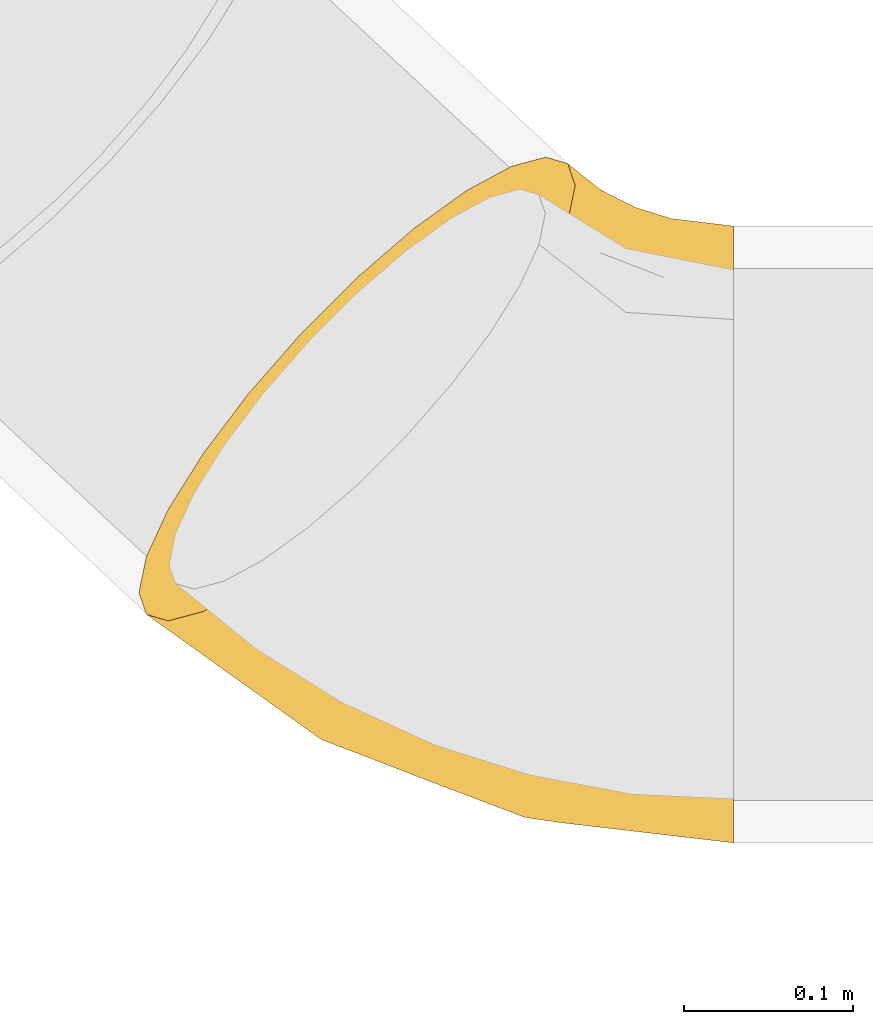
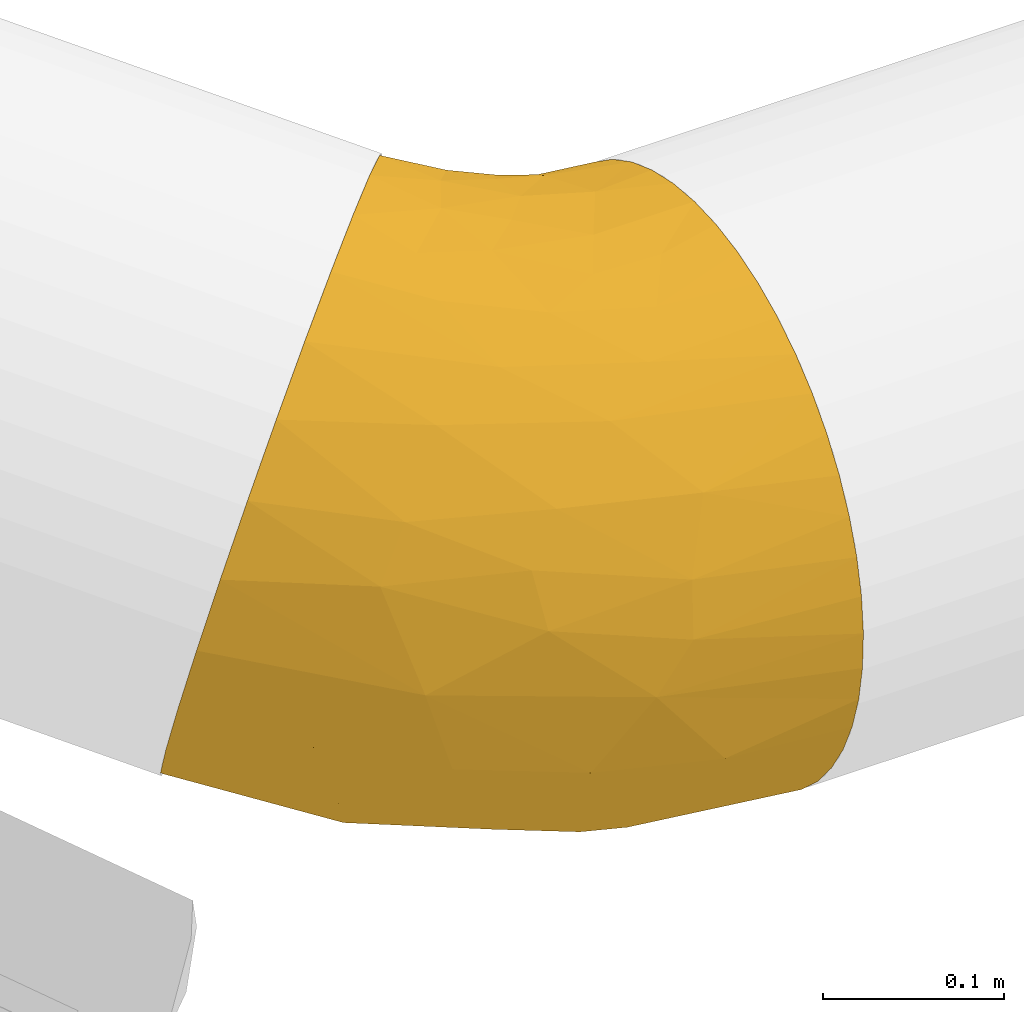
# One storey, part 5 of 12: 1 covering.
"""IFC2X3 building model written with IfcOpenShell, lengths in millimetres."""

from ifc_helpers import new_model, entity, si_unit, converted_unit, derived_unit, direction, frame, origin_with_axes, place, context, subcontext, project, spatial, open_shell, surface_model, source, transform, mapped, element, save


model = new_model("IFC2X3")

# Units and contexts
model_context = context("Model", 3, precision=0.01, world=frame((0.0, 4.29681676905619e-09, 0.0)), true_north=direction((4.01073788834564e-13, 1.0)))
plan_context = context("Plan", 3, precision=0.01, world=frame((0.0, 4.29681676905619e-09, 0.0)), true_north=direction((4.01073788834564e-13, 1.0)))
body_context = subcontext(model_context, "Body", "Model", "MODEL_VIEW")
ifc_project = project(units=[converted_unit("PLANEANGLEUNIT", "DEGREE", entity("IfcPositiveLengthMeasure", 0.0174532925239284), si_unit("PLANEANGLEUNIT", "RADIAN"), dimensions=[0, 0, 0, 0, 0, 0, 0]), si_unit("AREAUNIT", "SQUARE_METRE"), si_unit("LENGTHUNIT", "METRE", prefix="MILLI"), si_unit("MASSUNIT", "GRAM", prefix="KILO"), si_unit("POWERUNIT", "WATT"), si_unit("PRESSUREUNIT", "PASCAL", prefix="KILO"), si_unit("FORCEUNIT", "NEWTON", prefix="KILO"), si_unit("ELECTRICVOLTAGEUNIT", "VOLT"), si_unit("ELECTRICCURRENTUNIT", "AMPERE"), si_unit("THERMODYNAMICTEMPERATUREUNIT", "DEGREE_CELSIUS"), si_unit("TIMEUNIT", "SECOND"), si_unit("VOLUMEUNIT", "CUBIC_METRE"), derived_unit("LINEARVELOCITYUNIT", [(si_unit("LENGTHUNIT", "METRE"), 1), (si_unit("TIMEUNIT", "SECOND"), -1)]), derived_unit("VOLUMETRICFLOWRATEUNIT", [(si_unit("VOLUMEUNIT", "CUBIC_METRE"), 1), (si_unit("TIMEUNIT", "SECOND"), -1)]), derived_unit("THERMALTRANSMITTANCEUNIT", [(si_unit("POWERUNIT", "WATT"), 1), (si_unit("THERMODYNAMICTEMPERATUREUNIT", "KELVIN"), -1), (si_unit("AREAUNIT", "SQUARE_METRE"), -1)]), derived_unit("SOUNDPRESSUREUNIT", [(si_unit("PRESSUREUNIT", "PASCAL"), 1)])], contexts=[model_context, plan_context])

# Site, building, storey
site_placement = place(None, frame((0.0, -4.29681676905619e-09, 0.0), z_axis=(0.0, 0.0, 1.0), x_axis=(1.0, 0.0, 0.0)))
site = spatial("IfcSite", under=ifc_project, at=site_placement, CompositionType="ELEMENT")
building_placement = place(site_placement, frame((0.0, 4.29681676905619e-09, 0.0), z_axis=(0.0, 0.0, 1.0), x_axis=(1.0, 0.0, 0.0)))
building = spatial("IfcBuilding", under=site, at=building_placement, Name="mc-building", CompositionType="ELEMENT")
storey_placement = place(building_placement, frame((0.0, 0.0, 204000.0), z_axis=(0.0, 0.0, 1.0), x_axis=(1.0, 0.0, 0.0)))
storey = spatial("IfcBuildingStorey", under=building, at=storey_placement, Name="Nivå D", CompositionType="ELEMENT", Elevation=204000.0)

# Covering
shared_shape = source(origin_with_axes(), body_context, "Body", "SurfaceModel", [
    surface_model("IfcShellBasedSurfaceModel", [(42.87968, 141.64304, 168.60946), (58.86437, 125.65835, 176.28254), (75.42051, 109.10222, 180.93928), (211.48626, -26.96353, 69.83624), (194.64252, -10.11979, 111.09658), (204.02052, -19.4978, 91.24706), (216.91194, -32.38921, 47.23048), (220.20475, -35.68202, 23.81657), (92.26137, 92.26137, 182.5), (109.10569, 75.41703, 180.93863), (-130.47727, 176.28146, 47.23448), (-130.47727, 129.04698, 129.04698), (-130.47727, 158.04964, 91.25), (-130.47727, 47.23448, 176.28146), (-130.47727, 91.25, 158.04964), (23.25868, -158.15061, 0.0), (95.383, -128.27575, 0.0), (-3.17124, -157.50585, 53.9118), (-52.65112, -176.37495, 0.0), (-130.47727, -176.28146, 47.23448), (-130.47727, -182.5, 0.0), (104.29737, -32.94358, 149.44977), (183.51267, 1.01006, 129.04515), (170.82142, 13.70131, 144.78565), (-9.93199, 23.97795, 182.5), (-69.02382, 6.05264, 182.5), (-24.56403, -20.54224, 178.73867), (114.35694, -68.16287, 117.42434), (116.66798, -106.5569, 56.1035), (49.40386, -119.26985, 96.25786), (125.6618, 58.86092, 176.28123), (51.14654, 16.98607, 179.30532), (-130.47727, -158.04964, 91.25), (-45.73677, -138.77969, 108.66266), (-130.47727, -129.04698, 129.04698), (-46.50264, -64.55271, 166.94295), (42.68669, -23.91785, 170.30503), (31.4936, -76.03327, 146.9283), (-130.47727, -47.23448, 176.28146), (-130.47727, 0.0, 182.5), (125.67947, -84.7872, 88.12772), (161.94589, -87.48596, 0.0), (-44.62794, -112.3015, 136.76218), (156.78594, 27.73678, 158.04875), (141.64639, 42.87634, 168.6075), (29.82213, -104.48164, 123.82414), (221.30835, -36.78562, 0.0), (-130.47727, -91.25, 158.04964), (44.52735, 53.08707, 182.5), (-51.76098, 55.50714, 177.15846), (-90.04335, 34.13658, 179.80614), (-11.0109, 137.91955, 151.74498), (13.70422, 170.81852, 144.78881), (1.01266, 183.51006, 129.04883), (-101.80563, 174.45483, 62.23653), (-110.02967, 181.81198, 28.55947), (-86.73142, 80.19168, 165.85298), (-48.17835, 87.92988, 167.05556), (-48.73159, 117.64918, 151.74499), (-80.05974, 188.08981, 38.2721), (-53.07063, 195.73157, 58.66376), (-52.30164, 205.4942, 27.25871), (5.37573, 60.83692, 180.52038), (-93.37442, 114.50308, 144.78699), (-130.47727, 182.5, 0.0), (-32.38829, 216.91102, 47.23535), (-35.68157, 220.20429, 23.82149), (-93.55992, 148.8387, 111.09895), (-72.56898, 175.19728, 80.71907), (-41.7964, 160.90497, 120.33241), (-66.14065, 140.24568, 129.31445), (-96.18375, 187.01482, 0.0), (-2.61605, 92.82385, 172.81601), (36.54973, 91.02124, 178.99416), (-26.96214, 211.48487, 69.84097), (27.73994, 156.78278, 158.05133), (-46.73971, 182.01861, 91.59439), (-10.11755, 194.64028, 111.1007), (-19.49598, 204.01871, 91.25153), (-64.22727, 200.25164, 0.0), (-36.78562, 221.30835, 0.0), (-66.00878, 160.7992, 106.96805), (-75.78144, 177.81349, -72.89014), (-101.61909, 182.21751, -34.97254), (-78.84671, 190.35281, -29.60433), (-39.17356, 179.664, -101.38891), (-10.11979, 194.64252, -111.09658), (1.01006, 183.51267, -129.04515), (-86.25336, 115.95256, -144.78699), (-66.32564, 140.74819, -128.77897), (-50.23367, 123.06705, -147.86509), (-130.47727, 158.04964, -91.25), (-99.50447, 147.6287, -111.09895), (-130.47727, 129.04698, -129.04698), (-33.37838, 146.27752, -137.20918), (-68.00209, 164.17212, -101.3889), (-85.81435, 79.53552, -166.22445), (-51.06764, 53.22151, -177.73237), (-90.7131, 33.60783, -179.88014), (-98.72692, 172.09258, -69.83972), (-130.47727, 0.0, -182.5), (-130.47727, 47.23448, -176.28146), (-130.47727, 91.25, -158.04964), (38.60193, 88.20704, -179.65175), (58.86092, 125.6618, -176.28123), (75.41703, 109.10569, -180.93863), (-40.8217, 98.55271, -163.6786), (9.0736, 99.97949, -172.8144), (4.38699, 62.68671, -180.19643), (-9.93199, 23.97795, -182.5), (-69.02382, 6.05264, -182.5), (-59.55684, 191.76617, -58.65895), (-32.38921, 216.91194, -47.23048), (-26.96353, 211.48626, -69.83624), (42.87634, 141.64639, -168.6075), (-19.4978, 204.02052, -91.24706), (-11.4351, 125.95231, -157.8503), (13.70131, 170.82142, -144.78565), (27.73678, 156.78594, -158.04875), (-52.70337, 204.71352, -29.81211), (-35.68202, 220.20475, -23.81657), (-130.47727, 176.28146, -47.23448), (44.52735, 53.08707, -182.5), (92.26137, 92.26137, -182.5), (-24.56493, -20.54007, -178.73914), (125.65835, 58.86437, -176.28254), (51.1506, 16.99078, -179.30568), (109.10222, 75.42051, -180.93928), (96.68999, -79.49785, -116.7992), (53.55373, -129.28931, -76.05893), (-26.82777, -135.26085, -108.10373), (183.51006, 1.01266, -129.04883), (104.2955, -32.93976, -149.45272), (-49.89033, -95.82183, -150.20877), (-46.50084, -64.54927, -166.94426), (31.49304, -76.02905, -146.93133), (141.64304, 42.87968, -168.60946), (42.684, -23.914, -170.30681), (121.42287, -87.20795, -88.54884), (194.64028, -10.11755, -111.1007), (204.01871, -19.49598, -91.25153), (-130.47727, -47.23448, -176.28146), (-130.47727, -176.28146, -47.23448), (211.48487, -26.96214, -69.84097), (-31.04076, -163.12467, -57.04574), (-130.47727, -158.04964, -91.25), (58.43204, -141.06746, -37.31783), (-130.47727, -91.25, -158.04964), (216.91102, -32.38829, -47.23535), (136.97918, -93.77843, -56.6023), (-130.47727, -129.04698, -129.04698), (156.78278, 27.73994, -158.05133), (170.81852, 13.70422, -144.78881), (220.20429, -35.68157, -23.82149)], [open_shell([[[0, 1, 2]], [[3, 4, 5]], [[3, 6, 7]], [[8, 9, 2]], [[10, 11, 12]], [[11, 13, 14]], [[15, 16, 17]], [[18, 19, 20]], [[21, 22, 23]], [[24, 25, 26]], [[4, 22, 27]], [[28, 29, 17]], [[17, 16, 28]], [[15, 17, 18]], [[30, 9, 31]], [[32, 33, 34]], [[26, 35, 36]], [[35, 37, 36]], [[35, 26, 38]], [[39, 26, 25]], [[40, 29, 28]], [[26, 31, 24]], [[41, 28, 16]], [[39, 38, 26]], [[19, 17, 32]], [[31, 26, 36]], [[33, 42, 34]], [[21, 43, 44]], [[28, 6, 3]], [[45, 27, 37]], [[27, 40, 4]], [[29, 40, 27]], [[42, 45, 37]], [[21, 27, 22]], [[27, 45, 29]], [[6, 28, 7]], [[42, 37, 35]], [[40, 3, 5]], [[33, 45, 42]], [[41, 46, 7]], [[42, 47, 34]], [[45, 33, 29]], [[9, 48, 31]], [[8, 48, 9]], [[35, 47, 42]], [[38, 47, 35]], [[30, 31, 36]], [[44, 36, 21]], [[17, 19, 18]], [[36, 44, 30]], [[31, 48, 24]], [[37, 21, 36]], [[23, 43, 21]], [[17, 29, 33]], [[17, 33, 32]], [[41, 7, 28]], [[3, 40, 28]], [[27, 21, 37]], [[4, 40, 5]], [[25, 24, 49]], [[50, 39, 25]], [[51, 52, 53]], [[54, 55, 10]], [[56, 57, 58]], [[59, 60, 61]], [[24, 48, 62]], [[24, 62, 49]], [[56, 63, 14]], [[14, 63, 11]], [[64, 10, 55]], [[50, 25, 49]], [[61, 65, 66]], [[67, 54, 12]], [[59, 68, 60]], [[58, 69, 70]], [[67, 11, 63]], [[54, 68, 59]], [[63, 56, 58]], [[55, 59, 71]], [[72, 73, 0]], [[63, 58, 70]], [[65, 60, 74]], [[52, 51, 75]], [[51, 72, 0]], [[76, 77, 78]], [[51, 0, 75]], [[72, 62, 73]], [[12, 54, 10]], [[72, 51, 58]], [[2, 48, 8]], [[73, 2, 1]], [[53, 69, 51]], [[56, 13, 50]], [[58, 51, 69]], [[68, 76, 60]], [[60, 65, 61]], [[12, 11, 67]], [[79, 61, 80]], [[67, 70, 81]], [[68, 54, 67]], [[76, 68, 81]], [[59, 79, 71]], [[76, 74, 60]], [[56, 49, 57]], [[69, 53, 77]], [[73, 48, 2]], [[13, 56, 14]], [[49, 62, 72]], [[73, 1, 0]], [[48, 73, 62]], [[59, 55, 54]], [[64, 55, 71]], [[77, 76, 69]], [[74, 76, 78]], [[49, 72, 57]], [[72, 58, 57]], [[80, 61, 66]], [[59, 61, 79]], [[56, 50, 49]], [[39, 50, 13]], [[81, 70, 69]], [[63, 70, 67]], [[76, 81, 69]], [[67, 81, 68]], [[82, 83, 84]], [[83, 64, 71]], [[85, 86, 87]], [[88, 89, 90]], [[91, 92, 93]], [[71, 79, 84]], [[88, 93, 92]], [[94, 89, 95]], [[96, 97, 98]], [[92, 99, 95]], [[100, 101, 98]], [[96, 101, 102]], [[103, 104, 105]], [[96, 106, 97]], [[85, 95, 82]], [[107, 108, 106]], [[108, 97, 106]], [[84, 83, 71]], [[109, 110, 97]], [[99, 92, 91]], [[111, 112, 113]], [[88, 96, 102]], [[114, 104, 107]], [[86, 85, 115]], [[85, 111, 113]], [[116, 117, 118]], [[85, 113, 115]], [[112, 111, 119]], [[92, 95, 89]], [[110, 98, 97]], [[119, 80, 120]], [[119, 79, 80]], [[87, 94, 85]], [[121, 99, 91]], [[95, 85, 94]], [[106, 116, 107]], [[103, 122, 108]], [[102, 93, 88]], [[122, 103, 123]], [[82, 95, 99]], [[106, 96, 88]], [[106, 90, 116]], [[109, 108, 122]], [[116, 114, 107]], [[103, 108, 107]], [[94, 87, 117]], [[104, 103, 107]], [[97, 108, 109]], [[103, 105, 123]], [[117, 116, 94]], [[114, 116, 118]], [[119, 84, 79]], [[84, 111, 82]], [[99, 121, 83]], [[64, 83, 121]], [[112, 119, 120]], [[84, 119, 111]], [[100, 98, 110]], [[96, 98, 101]], [[82, 99, 83]], [[85, 82, 111]], [[90, 89, 94]], [[92, 89, 88]], [[116, 90, 94]], [[88, 90, 106]], [[124, 110, 109]], [[125, 126, 127]], [[128, 129, 130]], [[124, 100, 110]], [[131, 128, 132]], [[133, 134, 135]], [[125, 136, 137]], [[109, 122, 126]], [[138, 139, 140]], [[141, 124, 134]], [[18, 20, 142]], [[130, 133, 135]], [[143, 138, 140]], [[130, 144, 145]], [[16, 15, 146]], [[130, 135, 128]], [[147, 134, 133]], [[144, 18, 142]], [[143, 148, 149]], [[130, 145, 150]], [[139, 138, 128]], [[109, 126, 124]], [[127, 126, 122]], [[124, 126, 137]], [[125, 137, 126]], [[145, 144, 142]], [[144, 146, 15]], [[132, 136, 151]], [[152, 132, 151]], [[135, 134, 137]], [[139, 128, 131]], [[15, 18, 144]], [[149, 146, 129]], [[132, 137, 136]], [[147, 141, 134]], [[132, 128, 135]], [[138, 143, 149]], [[129, 138, 149]], [[132, 152, 131]], [[138, 129, 128]], [[41, 149, 153]], [[134, 124, 137]], [[46, 41, 153]], [[149, 148, 153]], [[146, 149, 16]], [[16, 149, 41]], [[100, 124, 141]], [[129, 146, 144]], [[137, 132, 135]], [[127, 122, 123]], [[130, 150, 133]], [[129, 144, 130]], [[150, 147, 133]], [[65, 74, 78]], [[66, 65, 78]], [[52, 75, 0]], [[43, 9, 30]], [[43, 30, 44]], [[112, 115, 113]], [[117, 114, 118]], [[121, 10, 64]], [[120, 80, 66]], [[53, 78, 77]], [[114, 117, 105]], [[114, 105, 104]], [[105, 117, 123]], [[43, 23, 9]], [[46, 3, 7]], [[127, 123, 125]], [[140, 139, 131]], [[93, 121, 91]], [[10, 121, 102]], [[102, 121, 93]], [[102, 141, 10]], [[11, 10, 147]], [[11, 147, 13]], [[13, 20, 39]], [[101, 100, 102]], [[147, 10, 141]], [[13, 147, 150]], [[150, 145, 142]], [[142, 13, 150]], [[142, 20, 13]], [[38, 34, 47]], [[38, 39, 34]], [[32, 20, 19]], [[20, 32, 34]], [[20, 34, 39]], [[141, 102, 100]], [[117, 66, 125]], [[53, 136, 78]], [[53, 52, 140]], [[78, 136, 66]], [[140, 52, 0]], [[66, 115, 112]], [[115, 87, 86]], [[117, 87, 115]], [[120, 66, 112]], [[66, 117, 115]], [[125, 123, 117]], [[0, 2, 140]], [[4, 2, 9]], [[4, 9, 23]], [[140, 2, 4]], [[4, 3, 140]], [[23, 22, 4]], [[152, 140, 131]], [[151, 140, 152]], [[66, 136, 125]], [[151, 136, 140]], [[153, 140, 46]], [[143, 153, 148]], [[140, 153, 143]], [[136, 53, 140]], [[3, 46, 140]]])]),
])
covering_placement = place(storey_placement, frame((598545.62797, 404046.5125, 2668.5), z_axis=(-1.05415510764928e-08, -0.361159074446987, 0.932504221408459), x_axis=(0.707106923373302, -0.659379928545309, -0.255377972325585)))
element("IfcCovering", 1, at=covering_placement, inside=storey, Name="T=25mm", PredefinedType="INSULATION", context=body_context, shape_type="MappedRepresentation", body=[
    mapped(shared_shape, transform((0.0, 0.0, 0.0), scale=1.0)),
])

save(model, "model.ifc")
